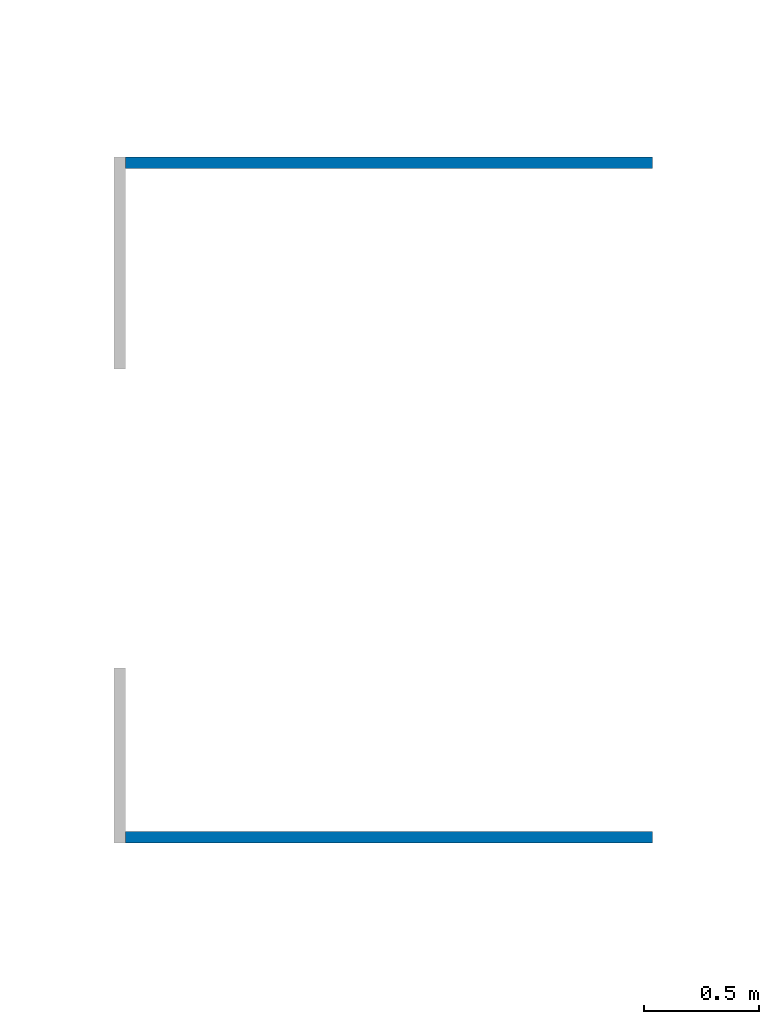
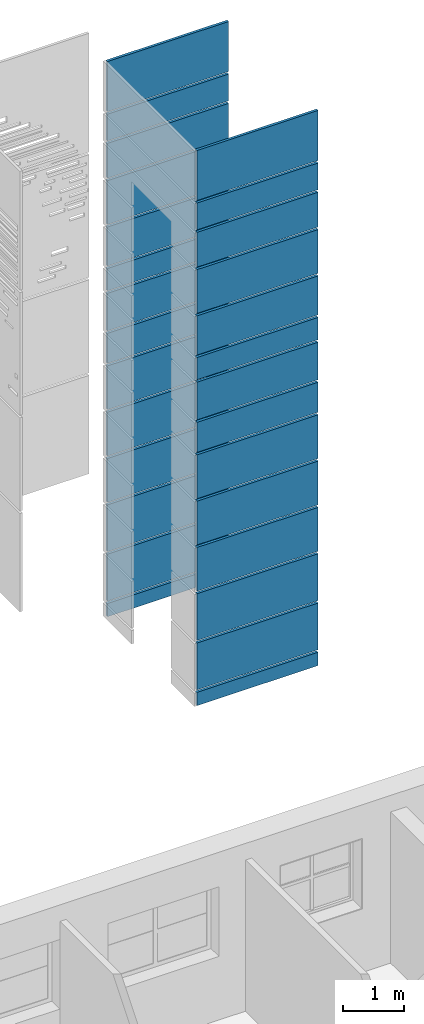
# One storey, part 30 of 49: 2 walls.
"""IFC2X3 building model written with IfcOpenShell, lengths in millimetres."""

import ifcopenshell
import ifcopenshell.guid

model = None  # the IFC model being written
_history = None  # IfcOwnerHistory: only IFC2X3 demands one
_inside = {}  # id of a spatial element -> (the spatial element, [elements in it])
_under = {}  # id of a project, library or spatial element -> (it, [spatial elements below it])
_declared = {}  # id of a project -> (the project, [libraries it declares])
_typed = {}  # id of a type object -> (the type object, [elements of that type])
_made_of = {}  # id of a material, layer set ... -> (it, [elements and type objects made of it])


def new_model(schema):
    """Start an empty IFC model of exactly this schema.

    Asked for "IFC4X3", IfcOpenShell would pick the latest addendum, in which some entities
    have other attributes; the version numbers below select the first issue.
    IFC2X3 requires an IfcOwnerHistory on every rooted entity: one is made here for all.
    """
    global model, _history
    if schema == "IFC4X3":
        model = ifcopenshell.file(schema_version=(4, 3, 0, 0))
    else:
        model = ifcopenshell.file(schema=schema)
    _inside.clear()
    _under.clear()
    _declared.clear()
    _typed.clear()
    _made_of.clear()
    _history = None
    if model.schema == "IFC2X3":
        org = make("IfcOrganization", Name="unknown")
        user = make(
            "IfcPersonAndOrganization",
            ThePerson=make("IfcPerson", FamilyName="unknown"),
            TheOrganization=org,
        )
        app = make(
            "IfcApplication",
            ApplicationDeveloper=org,
            Version="unknown",
            ApplicationFullName="unknown",
            ApplicationIdentifier="unknown",
        )
        _history = make(
            "IfcOwnerHistory",
            OwningUser=user,
            OwningApplication=app,
            ChangeAction="ADDED",
            CreationDate=0,
        )
    return model


def make(cls, **values):
    """One entity of the class cls with the attributes given. An attribute that is None is left unset."""
    return model.create_entity(
        cls, **{name: value for name, value in values.items() if value is not None}
    )


def entity(cls, *values):
    """Any entity or typed value of the class cls, its attributes in the order of the schema. None: left unset."""
    e = model.create_entity(cls)
    for i, value in enumerate(values):
        if value is not None:
            e[i] = value
    return e


def rooted(cls, **values):
    """An entity with a GlobalId (a new one), such as an element, a storey or a relation."""
    return make(cls, GlobalId=ifcopenshell.guid.new(), OwnerHistory=_history, **values)


def si_unit(unit_type, name, prefix=None):
    """IfcSIUnit, for example si_unit("LENGTHUNIT", "METRE", prefix="MILLI")."""
    return make("IfcSIUnit", UnitType=unit_type, Prefix=prefix, Name=name)


def converted_unit(unit_type, name, factor, base, dimensions=None, offset=None):
    """IfcConversionBasedUnit, such as the inch: factor (a typed value) times the base unit."""
    return make(
        "IfcConversionBasedUnit"
        if offset is None
        else "IfcConversionBasedUnitWithOffset",
        ConversionOffset=offset,
        Dimensions=None
        if dimensions is None
        else entity("IfcDimensionalExponents", *dimensions),
        UnitType=unit_type,
        Name=name,
        ConversionFactor=make(
            "IfcMeasureWithUnit", ValueComponent=factor, UnitComponent=base
        ),
    )


def derived_unit(unit_type, elements):
    """IfcDerivedUnit: a product of units, each with its exponent."""
    return make(
        "IfcDerivedUnit",
        Elements=[
            make("IfcDerivedUnitElement", Unit=unit, Exponent=power)
            for unit, power in elements
        ],
        UnitType=unit_type,
    )


def assignment(units):
    """IfcUnitAssignment: the units of a project."""
    return None if units is None else make("IfcUnitAssignment", Units=units)


def point(xyz):
    """IfcCartesianPoint."""
    return None if xyz is None else make("IfcCartesianPoint", Coordinates=xyz)


def direction(xyz):
    """IfcDirection."""
    return None if xyz is None else make("IfcDirection", DirectionRatios=xyz)


def frame(location, z_axis=None, x_axis=None):
    """IfcAxis2Placement3D, a coordinate frame: its origin and axes. An axis left out is left unset."""
    return make(
        "IfcAxis2Placement3D",
        Location=point(location),
        Axis=direction(z_axis),
        RefDirection=direction(x_axis),
    )


def frame_2d(location, x_axis=None):
    """IfcAxis2Placement2D, a coordinate frame in the plane: its origin and x axis."""
    return make(
        "IfcAxis2Placement2D", Location=point(location), RefDirection=direction(x_axis)
    )


def origin():
    """The frame at (0, 0, 0) with its axes left unset."""
    return frame((0.0, 0.0, 0.0))


def place(relative_to, where):
    """IfcLocalPlacement: puts the frame where relative to a parent placement (None: the world)."""
    return make(
        "IfcLocalPlacement", PlacementRelTo=relative_to, RelativePlacement=where
    )


def context(
    kind, dimensions, precision=None, world=None, true_north=None, identifier=None
):
    """IfcGeometricRepresentationContext, for example the 3D "Model" context."""
    return make(
        "IfcGeometricRepresentationContext",
        ContextIdentifier=identifier,
        ContextType=kind,
        CoordinateSpaceDimension=dimensions,
        Precision=precision,
        WorldCoordinateSystem=world,
        TrueNorth=true_north,
    )


def subcontext(parent, identifier, kind, view, scale=None):
    """IfcGeometricRepresentationSubContext, for example "Body" below "Model"."""
    return make(
        "IfcGeometricRepresentationSubContext",
        ContextIdentifier=identifier,
        ContextType=kind,
        ParentContext=parent,
        TargetScale=scale,
        TargetView=view,
    )


def project(units=None, contexts=None):
    """IfcProject with its units and contexts."""
    return rooted(
        "IfcProject",
        Name="project",
        RepresentationContexts=contexts,
        UnitsInContext=assignment(units),
    )


def spatial(cls, under=None, at=None, **own):
    """A site, building, storey or space (cls), placed at a placement, below another one or the project."""
    s = rooted(cls, ObjectPlacement=at, **own)
    if under is not None:
        _under.setdefault(under.id(), (under, []))[1].append(s)
    return s


def profile(cls, at=None, kind="AREA", **sizes):
    """A parametric profile (cls). Its sizes go by their IFC names, for example OverallWidth=200.0."""
    return make(cls, ProfileType=kind, Position=at, **sizes)


def rectangle(**sizes):
    """IfcRectangleProfileDef."""
    return profile("IfcRectangleProfileDef", **sizes)


def extrude(swept, where, along, depth):
    """IfcExtrudedAreaSolid: the profile swept, set in the frame where, extruded along a direction by depth."""
    return make(
        "IfcExtrudedAreaSolid",
        SweptArea=swept,
        Position=where,
        ExtrudedDirection=direction(along),
        Depth=depth,
    )


def shape(context_of_items, identifier, shape_type, items):
    """IfcShapeRepresentation: the items that make up one representation, for example the "Body"."""
    return make(
        "IfcShapeRepresentation",
        ContextOfItems=context_of_items,
        RepresentationIdentifier=identifier,
        RepresentationType=shape_type,
        Items=items,
    )


def material(Name=None, Category=None):
    """IfcMaterial."""
    return make("IfcMaterial", Name=Name, Category=Category)


def made_of(thing, what):
    """Note that an element or type object is made of a material, layer set ...; save() writes the relation."""
    if what is not None:
        _made_of.setdefault(what.id(), (what, []))[1].append(thing)
    return thing


def type_object(cls, material=None, **own):
    """A type object (cls), such as IfcWallType, which elements share."""
    return made_of(rooted(cls, **own), material)


def element(
    cls,
    number,
    at=None,
    inside=None,
    cuts=None,
    type_object=None,
    material=None,
    context=None,
    identifier="Body",
    shape_type=None,
    held_by="IfcProductDefinitionShape",
    body=None,
    shapes=None,
    **own,
):
    """One element of the class cls, such as IfcWall. Its Tag is "e" and its number.

    at: its placement. inside: the storey or other place that contains it. cuts: it is an
    opening in that element (IfcRelVoidsElement). A single representation is given by context,
    identifier, shape_type and body (its items); several are given by shapes. held_by: the class
    of the entity that holds the representations. save() writes the other relations.
    """
    e = rooted(cls, Tag="e%d" % number, ObjectPlacement=at, **own)
    if body is not None:
        shapes = [shape(context, identifier, shape_type, body)]
    if shapes is not None:
        e.Representation = make(held_by, Representations=shapes)
    if inside is not None:
        _inside.setdefault(inside.id(), (inside, []))[1].append(e)
    if cuts is not None:
        rooted(
            "IfcRelVoidsElement", RelatingBuildingElement=cuts, RelatedOpeningElement=e
        )
    if type_object is not None:
        _typed.setdefault(type_object.id(), (type_object, []))[1].append(e)
    return made_of(e, material)


def aggregate(whole, parts):
    """IfcRelAggregates: a whole, such as a stair, and the parts it consists of."""
    return rooted("IfcRelAggregates", RelatingObject=whole, RelatedObjects=parts)


def save(model, path):
    """Write the relations noted so far, then the file.

    IfcRelAggregates (storeys below a building ...), IfcRelContainedInSpatialStructure (elements
    in a storey), IfcRelDefinesByType, IfcRelAssociatesMaterial and IfcRelDeclares: one each for
    every whole, place, type object, material and project.
    """
    for whole, parts in _under.values():
        aggregate(whole, parts)
    for where, things in _inside.values():
        rooted(
            "IfcRelContainedInSpatialStructure",
            RelatedElements=things,
            RelatingStructure=where,
        )
    for kind, things in _typed.values():
        rooted("IfcRelDefinesByType", RelatedObjects=things, RelatingType=kind)
    for what, things in _made_of.values():
        rooted("IfcRelAssociatesMaterial", RelatedObjects=things, RelatingMaterial=what)
    for by, libraries in _declared.values():
        rooted("IfcRelDeclares", RelatingContext=by, RelatedDefinitions=libraries)
    model.write(path)


model = new_model("IFC2X3")

# Units and contexts
model_context = context("Model", 3, precision=0.01, world=origin(), true_north=direction((6.12303176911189e-17, 1.0)))
body_context = subcontext(model_context, "Body", "Model", "MODEL_VIEW")
ifc_project = project(units=[si_unit("LENGTHUNIT", "METRE", prefix="MILLI"), si_unit("AREAUNIT", "SQUARE_METRE"), si_unit("VOLUMEUNIT", "CUBIC_METRE"), converted_unit("PLANEANGLEUNIT", "DEGREE", entity("IfcRatioMeasure", 0.0174532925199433), si_unit("PLANEANGLEUNIT", "RADIAN"), dimensions=[0, 0, 0, 0, 0, 0, 0]), si_unit("MASSUNIT", "GRAM", prefix="KILO"), derived_unit("MASSDENSITYUNIT", [(si_unit("MASSUNIT", "GRAM", prefix="KILO"), 1), (si_unit("LENGTHUNIT", "METRE"), -3)]), si_unit("TIMEUNIT", "SECOND"), si_unit("FREQUENCYUNIT", "HERTZ"), si_unit("THERMODYNAMICTEMPERATUREUNIT", "DEGREE_CELSIUS"), derived_unit("THERMALTRANSMITTANCEUNIT", [(si_unit("MASSUNIT", "GRAM", prefix="KILO"), 1), (si_unit("THERMODYNAMICTEMPERATUREUNIT", "KELVIN"), -1), (si_unit("TIMEUNIT", "SECOND"), -3)]), derived_unit("VOLUMETRICFLOWRATEUNIT", [(si_unit("LENGTHUNIT", "METRE"), 3), (si_unit("TIMEUNIT", "SECOND"), -1)]), si_unit("ELECTRICCURRENTUNIT", "AMPERE"), si_unit("ELECTRICVOLTAGEUNIT", "VOLT"), si_unit("POWERUNIT", "WATT"), si_unit("FORCEUNIT", "NEWTON", prefix="KILO"), si_unit("ILLUMINANCEUNIT", "LUX"), si_unit("LUMINOUSFLUXUNIT", "LUMEN"), si_unit("LUMINOUSINTENSITYUNIT", "CANDELA"), derived_unit("USERDEFINED", [(si_unit("MASSUNIT", "GRAM", prefix="KILO"), -1), (si_unit("LENGTHUNIT", "METRE"), -2), (si_unit("TIMEUNIT", "SECOND"), 3), (si_unit("LUMINOUSFLUXUNIT", "LUMEN"), 1)]), derived_unit("LINEARVELOCITYUNIT", [(si_unit("LENGTHUNIT", "METRE"), 1), (si_unit("TIMEUNIT", "SECOND"), -1)]), si_unit("PRESSUREUNIT", "PASCAL"), derived_unit("USERDEFINED", [(si_unit("LENGTHUNIT", "METRE"), -2), (si_unit("MASSUNIT", "GRAM", prefix="KILO"), 1), (si_unit("TIMEUNIT", "SECOND"), -2)])], contexts=[model_context])

# Site, building, storey
site_placement = place(None, frame((-151.875543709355, 2715.0, 0.0)))
site = spatial("IfcSite", under=ifc_project, at=site_placement, Name="Surface", CompositionType="ELEMENT")
building_placement = place(site_placement, origin())
building = spatial("IfcBuilding", under=site, at=building_placement, CompositionType="ELEMENT")
storey_placement = place(building_placement, origin())
storey = spatial("IfcBuildingStorey", under=building, at=storey_placement, Name="1 korrus", CompositionType="ELEMENT", Elevation=3.0969999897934e-10)

# Walls
ifc_material = material(Name="Steel/Aluminium")
wall_type = type_object("IfcWallType", Name="fassaad16:fassaad 2", PredefinedType="NOTDEFINED", material=ifc_material)
wall_1_placement = place(storey_placement, frame((22782.6162691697, 19211.0, 714.731620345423)))
element("IfcWall", 1, at=wall_1_placement, inside=storey, type_object=wall_type, material=ifc_material, Name="fassaad16:fassaad 2", ObjectType="fassaad16:fassaad 2", context=body_context, shape_type="SweptSolid", body=[
    extrude(rectangle(XDim=50.0000000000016, YDim=2290.0, at=frame_2d((0.0, -2.1600499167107e-12), x_axis=(1.0, 0.0))), frame((7625.0, 25.0, 10090.2683796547), z_axis=(0.0, 0.0, 1.0), x_axis=(0.0, 1.0, 0.0)), (0.0, 0.0, 1.0), 1000.0),
    extrude(rectangle(XDim=50.0000000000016, YDim=2290.0, at=frame_2d((-1.08357767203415e-12, -2.1600499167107e-12), x_axis=(1.0, 0.0))), frame((7625.0, 25.0, 315.268379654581), z_axis=(0.0, 0.0, 1.0), x_axis=(0.0, 1.0, 0.0)), (0.0, 0.0, 1.0), 934.999999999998),
    extrude(rectangle(XDim=50.0000000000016, YDim=2290.0, at=frame_2d((-1.08357767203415e-12, -2.1600499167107e-12), x_axis=(1.0, 0.0))), frame((7625.0, 25.0, 0.0), z_axis=(0.0, 0.0, 1.0), x_axis=(0.0, 1.0, 0.0)), (0.0, 0.0, 1.0), 265.268379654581),
    extrude(rectangle(XDim=50.0000000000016, YDim=2289.99999999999, at=frame_2d((0.0, 2.1600499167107e-12), x_axis=(1.0, 0.0))), frame((7625.0, 25.0, 9505.26839965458), z_axis=(0.0, 0.0, 1.0), x_axis=(0.0, 1.0, 0.0)), (0.0, 0.0, 1.0), 534.999980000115),
    extrude(rectangle(XDim=50.0000000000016, YDim=2290.0, at=frame_2d((-1.08357767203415e-12, -2.1600499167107e-12), x_axis=(1.0, 0.0))), frame((7625.0, 25.0, 8760.26837965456), z_axis=(0.0, 0.0, 1.0), x_axis=(0.0, 1.0, 0.0)), (0.0, 0.0, 1.0), 695.000020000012),
    extrude(rectangle(XDim=50.0000000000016, YDim=2290.0, at=frame_2d((-1.08357767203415e-12, -2.1600499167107e-12), x_axis=(1.0, 0.0))), frame((7625.0, 25.0, 7835.26837965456), z_axis=(0.0, 0.0, 1.0), x_axis=(0.0, 1.0, 0.0)), (0.0, 0.0, 1.0), 875.0),
    extrude(rectangle(XDim=50.0000000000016, YDim=2290.0, at=frame_2d((0.0, -2.1600499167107e-12), x_axis=(1.0, 0.0))), frame((7625.0, 25.0, 7005.26837965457), z_axis=(0.0, 0.0, 1.0), x_axis=(0.0, 1.0, 0.0)), (0.0, 0.0, 1.0), 779.999999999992),
    extrude(rectangle(XDim=50.0000000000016, YDim=2290.0, at=frame_2d((0.0, -2.1600499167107e-12), x_axis=(1.0, 0.0))), frame((7625.0, 25.0, 6510.26837965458), z_axis=(0.0, 0.0, 1.0), x_axis=(0.0, 1.0, 0.0)), (0.0, 0.0, 1.0), 444.999999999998),
    extrude(rectangle(XDim=50.0000000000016, YDim=2290.00000000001, at=frame_2d((0.0, 2.1600499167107e-12), x_axis=(1.0, 0.0))), frame((7625.0, 25.0, 5710.26839965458), z_axis=(0.0, 0.0, 1.0), x_axis=(0.0, 1.0, 0.0)), (0.0, 0.0, 1.0), 749.999979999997),
    extrude(rectangle(XDim=50.0000000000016, YDim=2290.0, at=frame_2d((-1.08357767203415e-12, -2.1600499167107e-12), x_axis=(1.0, 0.0))), frame((7625.0, 25.0, 5060.26837965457), z_axis=(0.0, 0.0, 1.0), x_axis=(0.0, 1.0, 0.0)), (0.0, 0.0, 1.0), 600.000020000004),
    extrude(rectangle(XDim=50.0000000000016, YDim=2290.0, at=frame_2d((-2.16715534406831e-12, -2.1600499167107e-12), x_axis=(1.0, 0.0))), frame((7625.0, 25.0, 4135.26837965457), z_axis=(0.0, 0.0, 1.0), x_axis=(0.0, 1.0, 0.0)), (0.0, 0.0, 1.0), 874.999999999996),
    extrude(rectangle(XDim=50.0000000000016, YDim=2290.0, at=frame_2d((0.0, -2.1600499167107e-12), x_axis=(1.0, 0.0))), frame((7625.0, 25.0, 3210.26837965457), z_axis=(0.0, 0.0, 1.0), x_axis=(0.0, 1.0, 0.0)), (0.0, 0.0, 1.0), 875.0),
    extrude(rectangle(XDim=50.0000000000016, YDim=2290.0, at=frame_2d((2.16715534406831e-12, -2.1600499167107e-12), x_axis=(1.0, 0.0))), frame((7625.0, 25.0, 2285.26837965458), z_axis=(0.0, 0.0, 1.0), x_axis=(0.0, 1.0, 0.0)), (0.0, 0.0, 1.0), 875.0),
    extrude(rectangle(XDim=50.0000000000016, YDim=2290.0, at=frame_2d((-1.08357767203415e-12, -2.1600499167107e-12), x_axis=(1.0, 0.0))), frame((7625.0, 25.0, 1300.26837965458), z_axis=(0.0, 0.0, 1.0), x_axis=(0.0, 1.0, 0.0)), (0.0, 0.0, 1.0), 934.999999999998),
])
wall_2_placement = place(storey_placement, frame((22782.6162691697, 22139.5995458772, 714.731620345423)))
element("IfcWall", 2, at=wall_2_placement, inside=storey, type_object=wall_type, material=ifc_material, Name="fassaad16:fassaad 2", ObjectType="fassaad16:fassaad 2", context=body_context, shape_type="SweptSolid", body=[
    extrude(rectangle(XDim=2290.0, YDim=50.0000000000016, at=frame_2d((2.1600499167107e-12, 0.0), x_axis=(1.0, 0.0))), frame((7625.0, 25.0, 10090.2683796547), z_axis=(0.0, 0.0, 1.0), x_axis=(-1.0, 0.0, 0.0)), (0.0, 0.0, 1.0), 1000.0),
    extrude(rectangle(XDim=2290.0, YDim=50.0000000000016, at=frame_2d((2.1600499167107e-12, 0.0), x_axis=(1.0, 0.0))), frame((7625.0, 25.0, 315.268379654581), z_axis=(0.0, 0.0, 1.0), x_axis=(-1.0, 0.0, 0.0)), (0.0, 0.0, 1.0), 934.999999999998),
    extrude(rectangle(XDim=2290.0, YDim=50.0000000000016, at=frame_2d((2.1600499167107e-12, 0.0), x_axis=(1.0, 0.0))), frame((7625.0, 25.0, 0.0), z_axis=(0.0, 0.0, 1.0), x_axis=(-1.0, 0.0, 0.0)), (0.0, 0.0, 1.0), 265.268379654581),
    extrude(rectangle(XDim=2290.0, YDim=50.0000000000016, at=frame_2d((-2.1600499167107e-12, 0.0), x_axis=(1.0, 0.0))), frame((7625.0, 25.0, 9505.26839965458), z_axis=(0.0, 0.0, 1.0), x_axis=(-1.0, 0.0, 0.0)), (0.0, 0.0, 1.0), 534.999980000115),
    extrude(rectangle(XDim=2290.0, YDim=50.0000000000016, at=frame_2d((2.1600499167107e-12, 0.0), x_axis=(1.0, 0.0))), frame((7625.0, 25.0, 8760.26837965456), z_axis=(0.0, 0.0, 1.0), x_axis=(-1.0, 0.0, 0.0)), (0.0, 0.0, 1.0), 695.000020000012),
    extrude(rectangle(XDim=2290.0, YDim=50.0000000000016, at=frame_2d((2.1600499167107e-12, 0.0), x_axis=(1.0, 0.0))), frame((7625.0, 25.0, 7835.26837965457), z_axis=(0.0, 0.0, 1.0), x_axis=(-1.0, 0.0, 0.0)), (0.0, 0.0, 1.0), 875.0),
    extrude(rectangle(XDim=2290.0, YDim=50.0000000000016, at=frame_2d((2.1600499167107e-12, 0.0), x_axis=(1.0, 0.0))), frame((7625.0, 25.0, 7005.26837965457), z_axis=(0.0, 0.0, 1.0), x_axis=(-1.0, 0.0, 0.0)), (0.0, 0.0, 1.0), 779.999999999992),
    extrude(rectangle(XDim=2290.0, YDim=50.0000000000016, at=frame_2d((2.1600499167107e-12, 0.0), x_axis=(1.0, 0.0))), frame((7625.0, 25.0, 6510.26837965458), z_axis=(0.0, 0.0, 1.0), x_axis=(-1.0, 0.0, 0.0)), (0.0, 0.0, 1.0), 444.999999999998),
    extrude(rectangle(XDim=2290.00000000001, YDim=50.0000000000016, at=frame_2d((-2.1600499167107e-12, 0.0), x_axis=(1.0, 0.0))), frame((7625.0, 25.0, 5710.26839965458), z_axis=(0.0, 0.0, 1.0), x_axis=(-1.0, 0.0, 0.0)), (0.0, 0.0, 1.0), 749.999979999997),
    extrude(rectangle(XDim=2290.0, YDim=50.0000000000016, at=frame_2d((2.1600499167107e-12, 0.0), x_axis=(1.0, 0.0))), frame((7625.0, 25.0, 5060.26837965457), z_axis=(0.0, 0.0, 1.0), x_axis=(-1.0, 0.0, 0.0)), (0.0, 0.0, 1.0), 600.000020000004),
    extrude(rectangle(XDim=2290.0, YDim=50.0000000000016, at=frame_2d((2.1600499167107e-12, 0.0), x_axis=(1.0, 0.0))), frame((7625.0, 25.0, 4135.26837965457), z_axis=(0.0, 0.0, 1.0), x_axis=(-1.0, 0.0, 0.0)), (0.0, 0.0, 1.0), 874.999999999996),
    extrude(rectangle(XDim=2290.0, YDim=50.0000000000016, at=frame_2d((2.1600499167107e-12, 0.0), x_axis=(1.0, 0.0))), frame((7625.0, 25.0, 3210.26837965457), z_axis=(0.0, 0.0, 1.0), x_axis=(-1.0, 0.0, 0.0)), (0.0, 0.0, 1.0), 875.0),
    extrude(rectangle(XDim=2290.0, YDim=50.0000000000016, at=frame_2d((2.1600499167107e-12, 0.0), x_axis=(1.0, 0.0))), frame((7625.0, 25.0, 2285.26837965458), z_axis=(0.0, 0.0, 1.0), x_axis=(-1.0, 0.0, 0.0)), (0.0, 0.0, 1.0), 875.0),
    extrude(rectangle(XDim=2290.0, YDim=50.0000000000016, at=frame_2d((2.1600499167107e-12, 0.0), x_axis=(1.0, 0.0))), frame((7625.0, 25.0, 1300.26837965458), z_axis=(0.0, 0.0, 1.0), x_axis=(-1.0, 0.0, 0.0)), (0.0, 0.0, 1.0), 934.999999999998),
])

save(model, "model.ifc")
